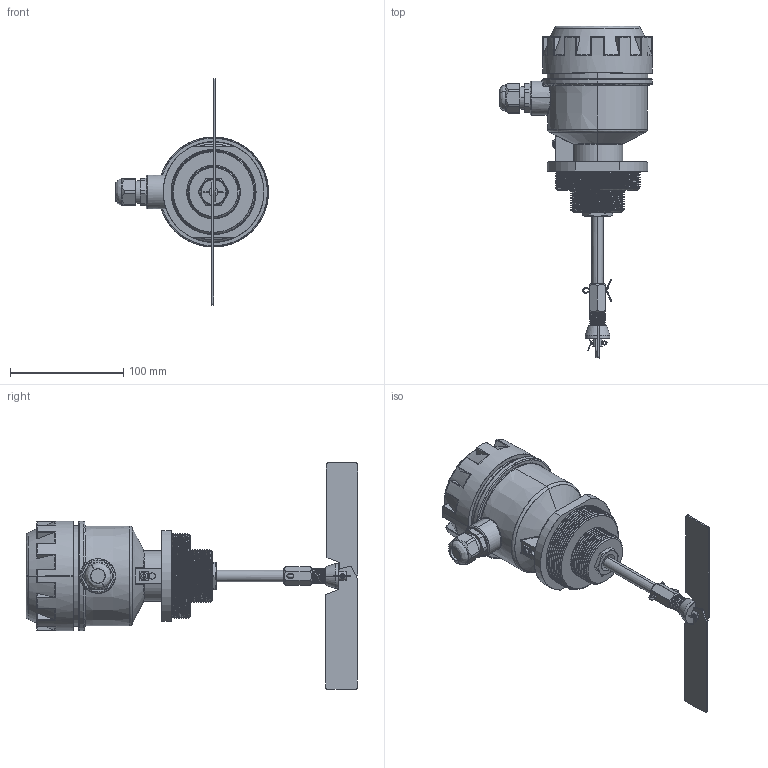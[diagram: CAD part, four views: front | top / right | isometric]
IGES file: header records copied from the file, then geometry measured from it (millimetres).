
Start section: SolidWorks IGES file using analytic representation for surfaces
Global section: file name: C:\Users\Äîì\Desktop\Äàò÷èêè ìîäåëè\IL-LDA-N\Äëÿ Êîìïàñà\IL-LDA-N - ñêëàäíàÿ ëîïàñòü - ð.IGS; native system: SolidWorks 2020; preprocessor: SolidWorks 2020; author: Äîì; date: 201229.142807; units: millimetre
Bounding box: 135 x 293 x 200 mm (x, y, z)
Surface area: 115400.7 mm2 (no closed solid volume)
Topology: 0 solids, 0 shells, 568 faces, 7032 edges, 7011 vertices
Faces by surface type: revolution 298, bspline 270
